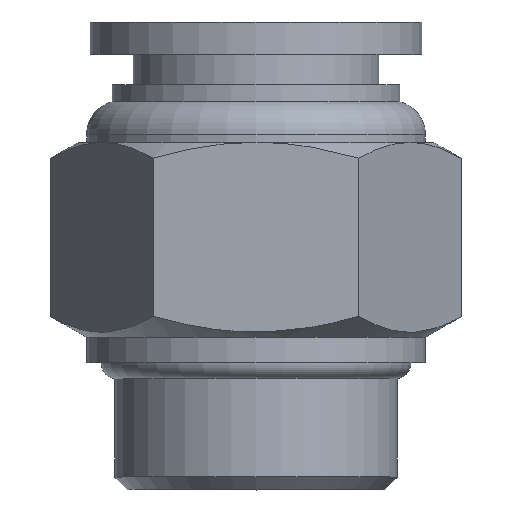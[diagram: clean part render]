
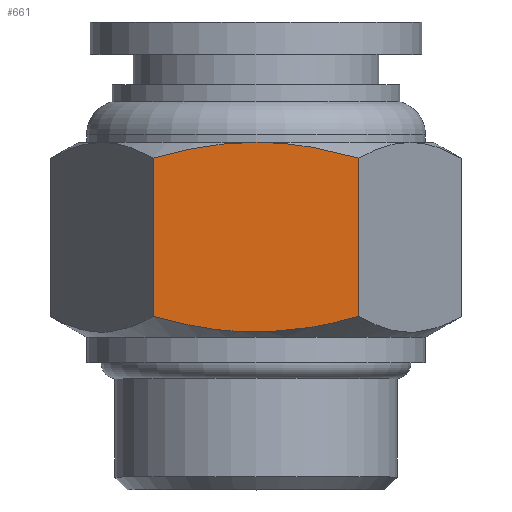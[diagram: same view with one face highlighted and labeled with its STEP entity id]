
A CAD part, top view. The second image highlights one B-rep face of the part: STEP entity #661.
In plain terms, the highlighted planar face has unit normal (0, 0, 1).
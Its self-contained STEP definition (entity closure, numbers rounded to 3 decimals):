
#15=(
BOUNDED_CURVE()
B_SPLINE_CURVE(2,(#1003,#1004,#1005),.UNSPECIFIED.,.F.,.F.)
B_SPLINE_CURVE_WITH_KNOTS((3,3),(1.827,2.612),
 .UNSPECIFIED.)
CURVE()
GEOMETRIC_REPRESENTATION_ITEM()
RATIONAL_B_SPLINE_CURVE((1.,1.09,1.103))
REPRESENTATION_ITEM('')
);
#25=(
BOUNDED_CURVE()
B_SPLINE_CURVE(2,(#1053,#1054,#1055),.UNSPECIFIED.,.F.,.F.)
B_SPLINE_CURVE_WITH_KNOTS((3,3),(1.042,1.827),
 .UNSPECIFIED.)
CURVE()
GEOMETRIC_REPRESENTATION_ITEM()
RATIONAL_B_SPLINE_CURVE((1.103,1.09,1.))
REPRESENTATION_ITEM('')
);
#26=(
BOUNDED_CURVE()
B_SPLINE_CURVE(2,(#1069,#1070,#1071),.UNSPECIFIED.,.F.,.F.)
B_SPLINE_CURVE_WITH_KNOTS((3,3),(0.95,2.681),
 .UNSPECIFIED.)
CURVE()
GEOMETRIC_REPRESENTATION_ITEM()
RATIONAL_B_SPLINE_CURVE((1.357,1.567,1.357))
REPRESENTATION_ITEM('')
);
#64=PLANE('',#743);
#89=LINE('',#1098,#118);
#103=LINE('',#1174,#132);
#118=VECTOR('',#865,10.);
#132=VECTOR('',#895,10.);
#171=FACE_OUTER_BOUND('',#210,.T.);
#210=EDGE_LOOP('',(#549,#550,#551,#552,#553));
#282=VERTEX_POINT('',#997);
#284=VERTEX_POINT('',#1002);
#293=VERTEX_POINT('',#1048);
#298=VERTEX_POINT('',#1067);
#299=VERTEX_POINT('',#1068);
#356=EDGE_CURVE('',#284,#282,#15,.T.);
#372=EDGE_CURVE('',#293,#284,#25,.T.);
#378=EDGE_CURVE('',#298,#299,#26,.T.);
#388=EDGE_CURVE('',#298,#282,#89,.T.);
#414=EDGE_CURVE('',#299,#293,#103,.T.);
#549=ORIENTED_EDGE('',*,*,#378,.T.);
#550=ORIENTED_EDGE('',*,*,#414,.T.);
#551=ORIENTED_EDGE('',*,*,#372,.T.);
#552=ORIENTED_EDGE('',*,*,#356,.T.);
#553=ORIENTED_EDGE('',*,*,#388,.F.);
#661=ADVANCED_FACE('',(#171),#64,.T.);
#743=AXIS2_PLACEMENT_3D('',#1173,#893,#894);
#865=DIRECTION('',(0.,1.,0.));
#893=DIRECTION('center_axis',(0.,0.,1.));
#894=DIRECTION('ref_axis',(1.,0.,0.));
#895=DIRECTION('',(0.,1.,0.));
#997=CARTESIAN_POINT('',(-6.062,19.562,10.5));
#1002=CARTESIAN_POINT('',(0.,20.5,10.5));
#1003=CARTESIAN_POINT('Ctrl Pts',(0.,20.5,10.5));
#1004=CARTESIAN_POINT('Ctrl Pts',(-2.813,20.5,10.5));
#1005=CARTESIAN_POINT('Ctrl Pts',(-6.062,19.562,10.5));
#1048=CARTESIAN_POINT('',(6.062,19.562,10.5));
#1053=CARTESIAN_POINT('Ctrl Pts',(6.062,19.562,10.5));
#1054=CARTESIAN_POINT('Ctrl Pts',(2.813,20.5,10.5));
#1055=CARTESIAN_POINT('Ctrl Pts',(0.,20.5,10.5));
#1067=CARTESIAN_POINT('',(-6.062,10.226,10.5));
#1068=CARTESIAN_POINT('',(6.062,10.226,10.5));
#1069=CARTESIAN_POINT('Ctrl Pts',(-6.062,10.226,10.5));
#1070=CARTESIAN_POINT('Ctrl Pts',(0.,8.476,
10.5));
#1071=CARTESIAN_POINT('Ctrl Pts',(6.062,10.226,10.5));
#1098=CARTESIAN_POINT('',(-6.062,7.5,10.5));
#1173=CARTESIAN_POINT('Origin',(-6.062,7.5,10.5));
#1174=CARTESIAN_POINT('',(6.062,7.5,10.5));
